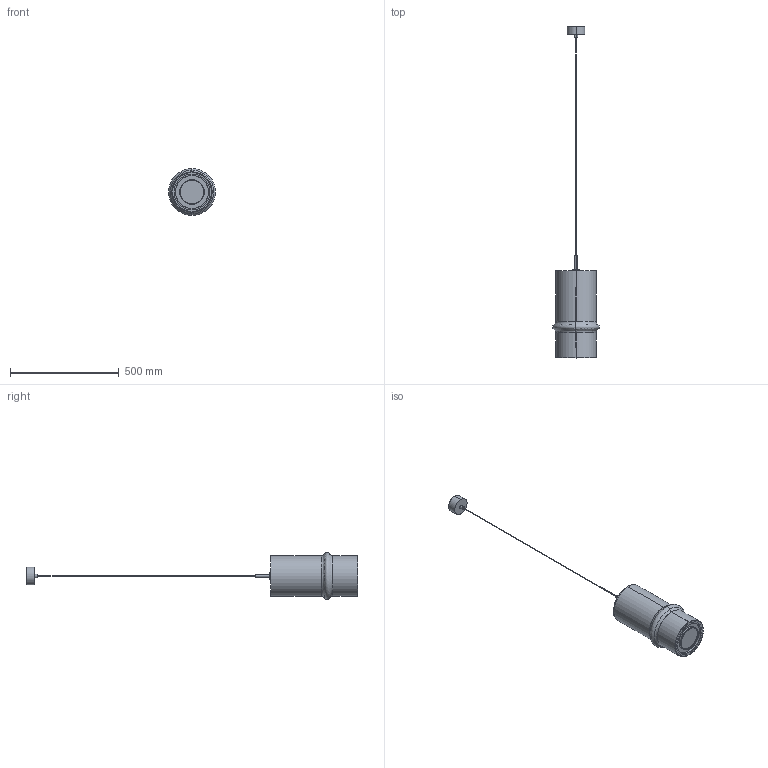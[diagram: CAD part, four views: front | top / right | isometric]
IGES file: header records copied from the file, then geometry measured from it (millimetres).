
Start section: SolidWorks IGES file using analytic representation for surfaces
Global section: file name: C:\Users\Agustin\Desktop\ANGELA\2025\MODELADOS\BAMBU\2D-3D BAMBU_C1087\BAMBU_C1087.IGS; native system: SolidWorks 2018; preprocessor: SolidWorks 2018; author: Agustin; date: 250919.172542; units: millimetre
Bounding box: 215.28 x 1527 x 215.28 mm (x, y, z)
Surface area: 632475.3 mm2 (no closed solid volume)
Topology: 0 solids, 0 shells, 52 faces, 1480 edges, 1480 vertices
Faces by surface type: revolution 28, bspline 24
